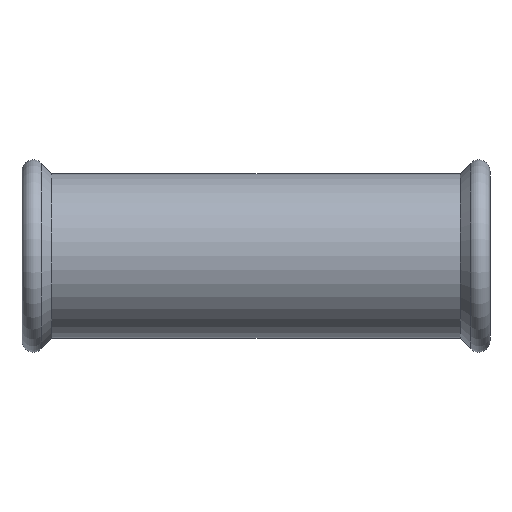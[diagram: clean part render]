
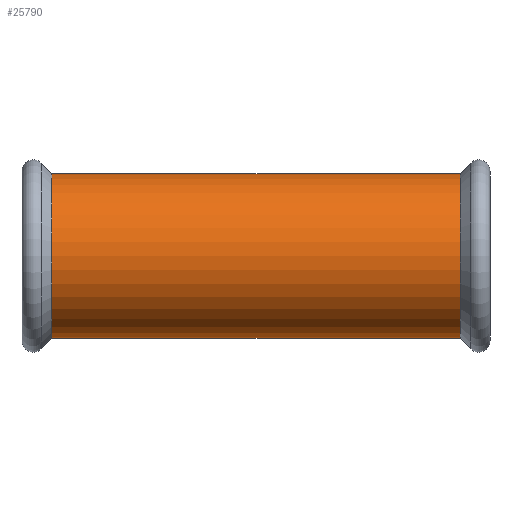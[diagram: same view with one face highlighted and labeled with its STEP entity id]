
A CAD part, top view. The second image highlights one B-rep face of the part: STEP entity #25790.
In plain terms, the highlighted cylindrical face has radius 40.45 mm (diameter 80.9 mm), a partial arc.
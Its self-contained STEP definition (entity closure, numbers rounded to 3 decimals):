
#4010=CARTESIAN_POINT('',(50.922,-40.45,0.));
#4020=VERTEX_POINT('',#4010);
#4100=CARTESIAN_POINT('',(50.922,40.45,0.));
#4110=VERTEX_POINT('',#4100);
#4140=CARTESIAN_POINT('',(50.922,0.,0.));
#4150=DIRECTION('',(1.,0.,0.));
#4160=DIRECTION('',(0.,1.,0.));
#4170=AXIS2_PLACEMENT_3D('',#4140,#4150,#4160);
#4180=CIRCLE('',#4170,40.45);
#20190=CARTESIAN_POINT('',(-149.922,40.45,0.));
#20200=VERTEX_POINT('',#20190);
#20280=CARTESIAN_POINT('',(-149.922,-40.45,
0.));
#20290=VERTEX_POINT('',#20280);
#20320=CARTESIAN_POINT('',(-149.922,0.,0.));
#20330=DIRECTION('',(-1.,0.,0.));
#20340=DIRECTION('',(0.,-1.,0.));
#20350=AXIS2_PLACEMENT_3D('',#20320,#20330,#20340);
#20360=CIRCLE('',#20350,40.45);
#20420=CARTESIAN_POINT('',(-135.969,0.,0.));
#20430=DIRECTION('',(1.,0.,0.));
#20440=DIRECTION('',(0.,-1.,0.));
#20450=AXIS2_PLACEMENT_3D('',#20420,#20430,#20440);
#20460=CYLINDRICAL_SURFACE('',#20450,40.45);
#20470=CARTESIAN_POINT('',(-135.969,40.45,0.
));
#20480=DIRECTION('',(1.,0.,0.));
#20490=VECTOR('',#20480,1.);
#20500=LINE('',#20470,#20490);
#20510=EDGE_CURVE('',#20200,#4110,#20500,.T.);
#20540=CARTESIAN_POINT('',(-135.969,-40.45,0.));
#20550=DIRECTION('',(1.,0.,0.));
#20560=VECTOR('',#20550,1.);
#20570=LINE('',#20540,#20560);
#20580=EDGE_CURVE('',#20290,#4020,#20570,.T.);
#24870=EDGE_CURVE('',#20290,#20200,#20360,.T.);
#25030=EDGE_CURVE('',#4110,#4020,#4180,.T.);
#25730=ORIENTED_EDGE('',*,*,#24870,.F.);
#25740=ORIENTED_EDGE('',*,*,#20510,.F.);
#25750=ORIENTED_EDGE('',*,*,#25030,.F.);
#25760=ORIENTED_EDGE('',*,*,#20580,.T.);
#25770=EDGE_LOOP('',(#25760,#25750,#25740,#25730));
#25780=FACE_OUTER_BOUND('',#25770,.T.);
#25790=ADVANCED_FACE('',(#25780),#20460,.T.);
